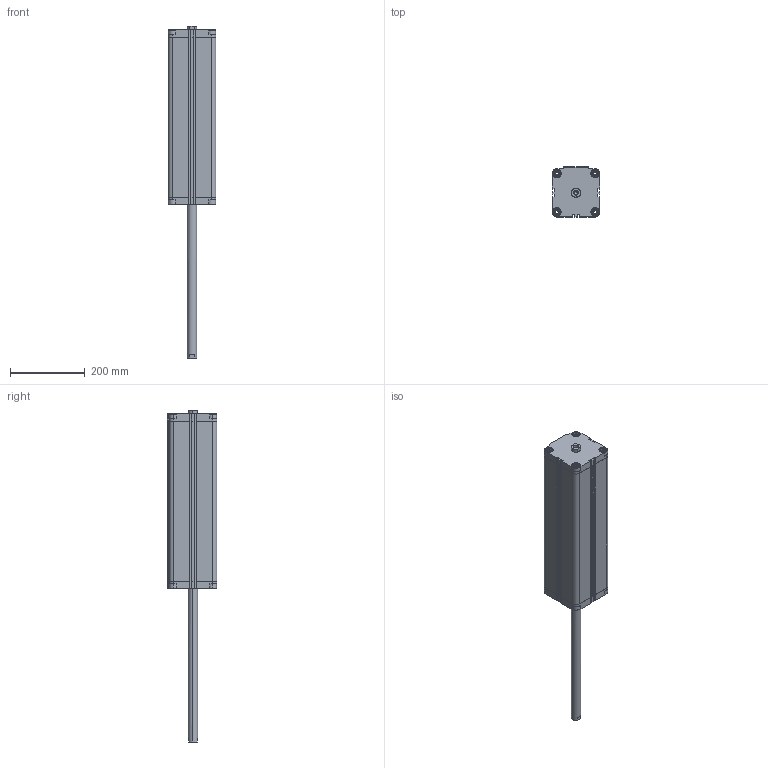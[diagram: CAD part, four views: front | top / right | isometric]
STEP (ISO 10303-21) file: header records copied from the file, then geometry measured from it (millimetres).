
FILE_DESCRIPTION (( 'STEP AP203' ), '1' );
FILE_NAME ('CDVU100-400F-P.STEP', '2020-07-24T18:44:15', ( '' ), ( '' ), 'SwSTEP 2.0', 'SolidWorks 2019', '' );
FILE_SCHEMA (( 'CONFIG_CONTROL_DESIGN' ));
Length unit declared in the file: millimetre
Products named in the file (1): CDVU100-400F-P
Bounding box: 128 x 133 x 886.5 mm (x, y, z)
Volume: 4561379.4 mm3; surface area: 632796.7 mm2
Topology: 2 solids, 2 shells, 670 faces, 1812 edges, 1188 vertices
Faces by surface type: plane 394, cylinder 212, cone 64
Entity records: 21267 total; most frequent: CARTESIAN_POINT 4239, ORIENTED_EDGE 3608, DIRECTION 3458, EDGE_CURVE 1804, VERTEX_POINT 1188, AXIS2_PLACEMENT_3D 1175, VECTOR 1108, LINE 1108
